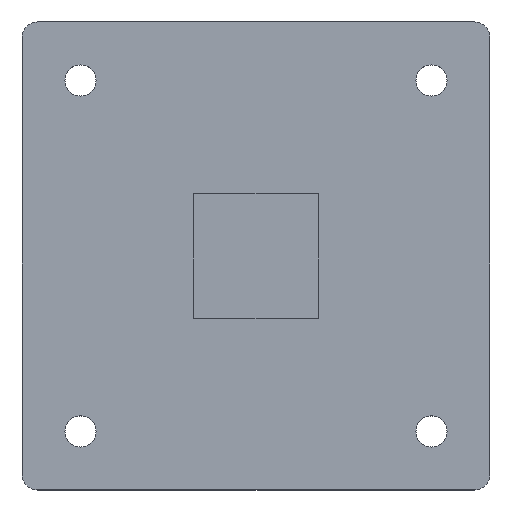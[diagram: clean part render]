
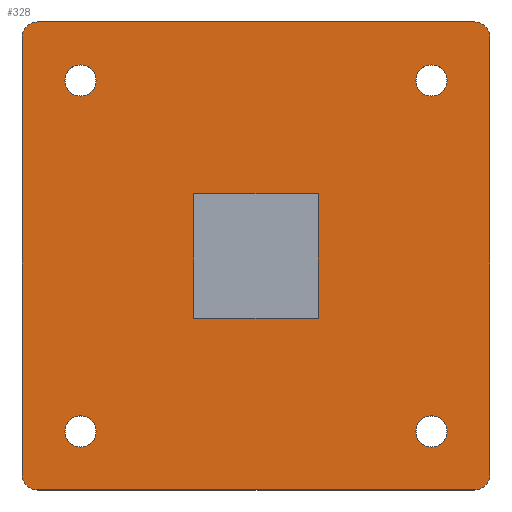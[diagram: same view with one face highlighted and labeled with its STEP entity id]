
A CAD part, top view. The second image highlights one B-rep face of the part: STEP entity #328.
In plain terms, the highlighted planar face has unit normal (0, 0, 1).
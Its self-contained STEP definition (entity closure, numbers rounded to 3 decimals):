
#252 = EDGE_CURVE( '', #286, #256, #716, .T. );
#256 = VERTEX_POINT( '', #720 );
#258 = EDGE_CURVE( '', #428, #298, #722, .T. );
#264 = EDGE_CURVE( '', #310, #288, #728, .T. );
#274 = EDGE_CURVE( '', #294, #286, #738, .T. );
#280 = EDGE_CURVE( '', #468, #394, #745, .T. );
#286 = VERTEX_POINT( '', #753 );
#288 = VERTEX_POINT( '', #755 );
#290 = EDGE_CURVE( '', #312, #294, #757, .T. );
#294 = VERTEX_POINT( '', #761 );
#298 = VERTEX_POINT( '', #765 );
#308 = EDGE_CURVE( '', #330, #312, #775, .T. );
#310 = VERTEX_POINT( '', #777 );
#312 = VERTEX_POINT( '', #779 );
#326 = EDGE_CURVE( '', #352, #330, #794, .T. );
#328 = ADVANCED_FACE( '', ( #796, #797, #798, #799, #800, #801 ), #802, .T. );
#330 = VERTEX_POINT( '', #804 );
#346 = EDGE_CURVE( '', #374, #352, #821, .T. );
#352 = VERTEX_POINT( '', #827 );
#372 = EDGE_CURVE( '', #382, #374, #851, .T. );
#374 = VERTEX_POINT( '', #853 );
#382 = VERTEX_POINT( '', #861 );
#390 = EDGE_CURVE( '', #458, #514, #870, .T. );
#392 = EDGE_CURVE( '', #298, #428, #872, .T. );
#394 = VERTEX_POINT( '', #874 );
#400 = EDGE_CURVE( '', #394, #468, #880, .T. );
#414 = EDGE_CURVE( '', #288, #310, #894, .T. );
#428 = VERTEX_POINT( '', #911 );
#430 = EDGE_CURVE( '', #462, #544, #913, .T. );
#458 = VERTEX_POINT( '', #945 );
#460 = EDGE_CURVE( '', #494, #462, #947, .T. );
#462 = VERTEX_POINT( '', #949 );
#468 = VERTEX_POINT( '', #956 );
#482 = EDGE_CURVE( '', #542, #494, #972, .T. );
#494 = VERTEX_POINT( '', #984 );
#514 = VERTEX_POINT( '', #1006 );
#538 = EDGE_CURVE( '', #544, #542, #1030, .T. );
#542 = VERTEX_POINT( '', #1034 );
#544 = VERTEX_POINT( '', #1036 );
#546 = EDGE_CURVE( '', #256, #382, #1038, .T. );
#650 = EDGE_CURVE( '', #514, #458, #1161, .T. );
#716 = LINE( '', #1231, #1232 );
#720 = CARTESIAN_POINT( '', ( -28., -30., 0. ) );
#722 = CIRCLE( '', #1239, 2. );
#728 = CIRCLE( '', #1248, 2. );
#738 = CIRCLE( '', #1263, 2. );
#745 = CIRCLE( '', #1271, 2. );
#753 = CARTESIAN_POINT( '', ( 28., -30., 0. ) );
#755 = CARTESIAN_POINT( '', ( -20.5, 22.5, 0. ) );
#757 = LINE( '', #1284, #1285 );
#761 = CARTESIAN_POINT( '', ( 30., -28., 0. ) );
#765 = CARTESIAN_POINT( '', ( 24.5, 22.5, 0. ) );
#775 = CIRCLE( '', #1312, 2. );
#777 = CARTESIAN_POINT( '', ( -24.5, 22.5, 0. ) );
#779 = CARTESIAN_POINT( '', ( 30., 28., 0. ) );
#794 = LINE( '', #1338, #1339 );
#796 = FACE_BOUND( '', #1341, .T. );
#797 = FACE_OUTER_BOUND( '', #1342, .T. );
#798 = FACE_BOUND( '', #1343, .T. );
#799 = FACE_BOUND( '', #1344, .T. );
#800 = FACE_BOUND( '', #1345, .T. );
#801 = FACE_BOUND( '', #1346, .T. );
#802 = PLANE( '', #1347 );
#804 = CARTESIAN_POINT( '', ( 28., 30., 0. ) );
#821 = CIRCLE( '', #1373, 2. );
#827 = CARTESIAN_POINT( '', ( -28., 30., 0. ) );
#851 = LINE( '', #1412, #1413 );
#853 = CARTESIAN_POINT( '', ( -30., 28., 0. ) );
#861 = CARTESIAN_POINT( '', ( -30., -28., 0. ) );
#870 = CIRCLE( '', #1439, 2. );
#872 = CIRCLE( '', #1442, 2. );
#874 = CARTESIAN_POINT( '', ( -20.5, -22.5, 0. ) );
#880 = CIRCLE( '', #1455, 2. );
#894 = CIRCLE( '', #1476, 2. );
#911 = CARTESIAN_POINT( '', ( 20.5, 22.5, 0. ) );
#913 = LINE( '', #1504, #1505 );
#945 = CARTESIAN_POINT( '', ( 24.5, -22.5, 0. ) );
#947 = LINE( '', #1553, #1554 );
#949 = CARTESIAN_POINT( '', ( 8., 8., 0. ) );
#956 = CARTESIAN_POINT( '', ( -24.5, -22.5, 0. ) );
#972 = LINE( '', #1588, #1589 );
#984 = CARTESIAN_POINT( '', ( -8., 8., 0. ) );
#1006 = CARTESIAN_POINT( '', ( 20.5, -22.5, 0. ) );
#1030 = LINE( '', #1669, #1670 );
#1034 = CARTESIAN_POINT( '', ( -8., -8., 0. ) );
#1036 = CARTESIAN_POINT( '', ( 8., -8., 0. ) );
#1038 = CIRCLE( '', #1679, 2. );
#1161 = CIRCLE( '', #1850, 2. );
#1231 = CARTESIAN_POINT( '', ( -28., -30., 0. ) );
#1232 = VECTOR( '', #1919, 1. );
#1239 = AXIS2_PLACEMENT_3D( '', #1920, #1921, #1922 );
#1248 = AXIS2_PLACEMENT_3D( '', #1924, #1925, #1926 );
#1263 = AXIS2_PLACEMENT_3D( '', #1929, #1930, #1931 );
#1271 = AXIS2_PLACEMENT_3D( '', #1940, #1941, #1942 );
#1284 = CARTESIAN_POINT( '', ( 30., -28., 0. ) );
#1285 = VECTOR( '', #1959, 1. );
#1312 = AXIS2_PLACEMENT_3D( '', #1964, #1965, #1966 );
#1338 = CARTESIAN_POINT( '', ( 28., 30., 0. ) );
#1339 = VECTOR( '', #1978, 1. );
#1341 = EDGE_LOOP( '', ( #1980, #1981, #1982, #1983 ) );
#1342 = EDGE_LOOP( '', ( #1984, #1985, #1986, #1987, #1988, #1989, #1990, #1991 ) );
#1343 = EDGE_LOOP( '', ( #1992, #1993 ) );
#1344 = EDGE_LOOP( '', ( #1994, #1995 ) );
#1345 = EDGE_LOOP( '', ( #1996, #1997 ) );
#1346 = EDGE_LOOP( '', ( #1998, #1999 ) );
#1347 = AXIS2_PLACEMENT_3D( '', #2000, #2001, #2002 );
#1373 = AXIS2_PLACEMENT_3D( '', #2014, #2015, #2016 );
#1412 = CARTESIAN_POINT( '', ( -30., 28., 0. ) );
#1413 = VECTOR( '', #2053, 1. );
#1439 = AXIS2_PLACEMENT_3D( '', #2070, #2071, #2072 );
#1442 = AXIS2_PLACEMENT_3D( '', #2073, #2074, #2075 );
#1455 = AXIS2_PLACEMENT_3D( '', #2078, #2079, #2080 );
#1476 = AXIS2_PLACEMENT_3D( '', #2084, #2085, #2086 );
#1504 = CARTESIAN_POINT( '', ( 8., 4., 0. ) );
#1505 = VECTOR( '', #2111, 1. );
#1553 = CARTESIAN_POINT( '', ( -4., 8., 0. ) );
#1554 = VECTOR( '', #2153, 1. );
#1588 = CARTESIAN_POINT( '', ( -8., -4., 0. ) );
#1589 = VECTOR( '', #2182, 1. );
#1669 = CARTESIAN_POINT( '', ( 4., -8., 0. ) );
#1670 = VECTOR( '', #2212, 1. );
#1679 = AXIS2_PLACEMENT_3D( '', #2213, #2214, #2215 );
#1850 = AXIS2_PLACEMENT_3D( '', #2380, #2381, #2382 );
#1919 = DIRECTION( '', ( -1., 0., 0. ) );
#1920 = CARTESIAN_POINT( '', ( 22.5, 22.5, 0. ) );
#1921 = DIRECTION( '', ( 0., 0., 1. ) );
#1922 = DIRECTION( '', ( 1., 0., 0. ) );
#1924 = CARTESIAN_POINT( '', ( -22.5, 22.5, 0. ) );
#1925 = DIRECTION( '', ( 0., 0., 1. ) );
#1926 = DIRECTION( '', ( 1., 0., 0. ) );
#1929 = CARTESIAN_POINT( '', ( 28., -28., 0. ) );
#1930 = DIRECTION( '', ( 0., 0., -1. ) );
#1931 = DIRECTION( '', ( 0., -1., 0. ) );
#1940 = CARTESIAN_POINT( '', ( -22.5, -22.5, 0. ) );
#1941 = DIRECTION( '', ( 0., 0., 1. ) );
#1942 = DIRECTION( '', ( 1., 0., 0. ) );
#1959 = DIRECTION( '', ( 0., -1., 0. ) );
#1964 = CARTESIAN_POINT( '', ( 28., 28., 0. ) );
#1965 = DIRECTION( '', ( 0., 0., -1. ) );
#1966 = DIRECTION( '', ( 1., 0., 0. ) );
#1978 = DIRECTION( '', ( 1., 0., 0. ) );
#1980 = ORIENTED_EDGE( '', *, *, #460, .T. );
#1981 = ORIENTED_EDGE( '', *, *, #430, .T. );
#1982 = ORIENTED_EDGE( '', *, *, #538, .T. );
#1983 = ORIENTED_EDGE( '', *, *, #482, .T. );
#1984 = ORIENTED_EDGE( '', *, *, #372, .F. );
#1985 = ORIENTED_EDGE( '', *, *, #546, .F. );
#1986 = ORIENTED_EDGE( '', *, *, #252, .F. );
#1987 = ORIENTED_EDGE( '', *, *, #274, .F. );
#1988 = ORIENTED_EDGE( '', *, *, #290, .F. );
#1989 = ORIENTED_EDGE( '', *, *, #308, .F. );
#1990 = ORIENTED_EDGE( '', *, *, #326, .F. );
#1991 = ORIENTED_EDGE( '', *, *, #346, .F. );
#1992 = ORIENTED_EDGE( '', *, *, #390, .F. );
#1993 = ORIENTED_EDGE( '', *, *, #650, .F. );
#1994 = ORIENTED_EDGE( '', *, *, #392, .F. );
#1995 = ORIENTED_EDGE( '', *, *, #258, .F. );
#1996 = ORIENTED_EDGE( '', *, *, #400, .F. );
#1997 = ORIENTED_EDGE( '', *, *, #280, .F. );
#1998 = ORIENTED_EDGE( '', *, *, #414, .F. );
#1999 = ORIENTED_EDGE( '', *, *, #264, .F. );
#2000 = CARTESIAN_POINT( '', ( 0., 0., 0. ) );
#2001 = DIRECTION( '', ( 0., 0., 1. ) );
#2002 = DIRECTION( '', ( 1., 0., 0. ) );
#2014 = CARTESIAN_POINT( '', ( -28., 28., 0. ) );
#2015 = DIRECTION( '', ( 0., 0., -1. ) );
#2016 = DIRECTION( '', ( 0., 1., 0. ) );
#2053 = DIRECTION( '', ( 0., 1., 0. ) );
#2070 = CARTESIAN_POINT( '', ( 22.5, -22.5, 0. ) );
#2071 = DIRECTION( '', ( 0., 0., 1. ) );
#2072 = DIRECTION( '', ( 1., 0., 0. ) );
#2073 = CARTESIAN_POINT( '', ( 22.5, 22.5, 0. ) );
#2074 = DIRECTION( '', ( 0., 0., 1. ) );
#2075 = DIRECTION( '', ( 1., 0., 0. ) );
#2078 = CARTESIAN_POINT( '', ( -22.5, -22.5, 0. ) );
#2079 = DIRECTION( '', ( 0., 0., 1. ) );
#2080 = DIRECTION( '', ( 1., 0., 0. ) );
#2084 = CARTESIAN_POINT( '', ( -22.5, 22.5, 0. ) );
#2085 = DIRECTION( '', ( 0., 0., 1. ) );
#2086 = DIRECTION( '', ( 1., 0., 0. ) );
#2111 = DIRECTION( '', ( 0., -1., 0. ) );
#2153 = DIRECTION( '', ( 1., 0., 0. ) );
#2182 = DIRECTION( '', ( 0., 1., 0. ) );
#2212 = DIRECTION( '', ( -1., 0., 0. ) );
#2213 = CARTESIAN_POINT( '', ( -28., -28., 0. ) );
#2214 = DIRECTION( '', ( 0., 0., -1. ) );
#2215 = DIRECTION( '', ( -1., 0., 0. ) );
#2380 = CARTESIAN_POINT( '', ( 22.5, -22.5, 0. ) );
#2381 = DIRECTION( '', ( 0., 0., 1. ) );
#2382 = DIRECTION( '', ( 1., 0., 0. ) );
